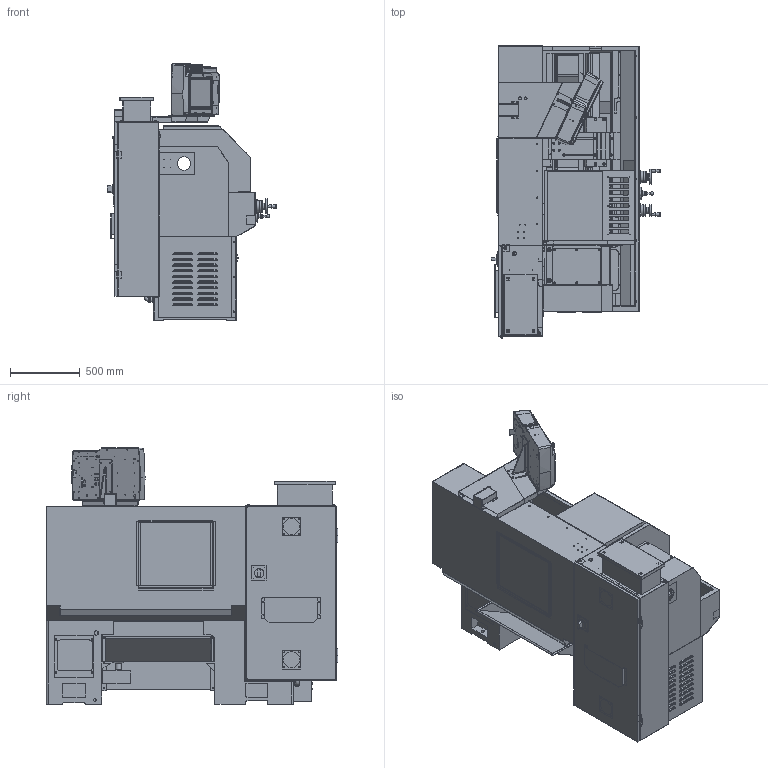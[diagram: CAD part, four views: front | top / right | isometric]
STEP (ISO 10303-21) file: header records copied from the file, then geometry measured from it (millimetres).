
FILE_DESCRIPTION( ( 'Unknown' ), '1' );
FILE_NAME( '//SERVERENG2/Data/DRAWINGS/1630RX-Simplified.stp', 'Unknown', ( 'Unknown' ), ( 'Unknown' ), 'PSStep 14.0', 'Unknown', ' ' );
FILE_SCHEMA( ( 'AUTOMOTIVE_DESIGN { 1 0 10303 214 1 1 1 1 }' ) );
Length unit declared in the file: millimetre
Products named in the file (124): 1; 2; 3; 4; 5; 25-0208A; 6; 7; 8; 9; 10; 11; 12; 13; 14; 15; 16; 17; 18; 19; 20; 21; 22; 23; 24; 25; 26; 27; 28; 29; 30; 31; 32; 33; 34; 35; 36; 37; 38; 39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
Bounding box: 1211.61 x 2092 x 1837.26 mm (x, y, z)
Surface area: 31537294.6 mm2 (no closed solid volume)
Topology: 0 solids, 1670 shells, 1670 faces, 10905 edges, 10718 vertices
Faces by surface type: plane 1123, cylinder 331, bspline 93, cone 68, torus 50, extrusion 3, sphere 2
Full cylindrical faces by diameter (mm): 4.917 x2, 6.35 x1, 6.5 x6, 6.647 x1, 6.9 x1, 7 x5, 7.112 x3, 7.5 x4, 8.89 x1, 9 x2, 9.2 x4, 10 x5, 10.106 x2, 10.668 x8, 12 x4, 12.7 x1, 12.878 x1, 14 x7, 16 x4, 16.154 x2, 17.056 x1, 17.294 x1, 18.395 x1, 19 x1, 19.05 x1, 20 x4, 21.5 x8, 22.835 x4, 23.139 x2, 23.876 x1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
Entity records: 133890 total; most frequent: CARTESIAN_POINT 40224, DIRECTION 16185, ORIENTED_EDGE 10647, EDGE_CURVE 10647, VERTEX_POINT 10647, VECTOR 6703, LINE 6700, AXIS2_PLACEMENT_3D 4741
